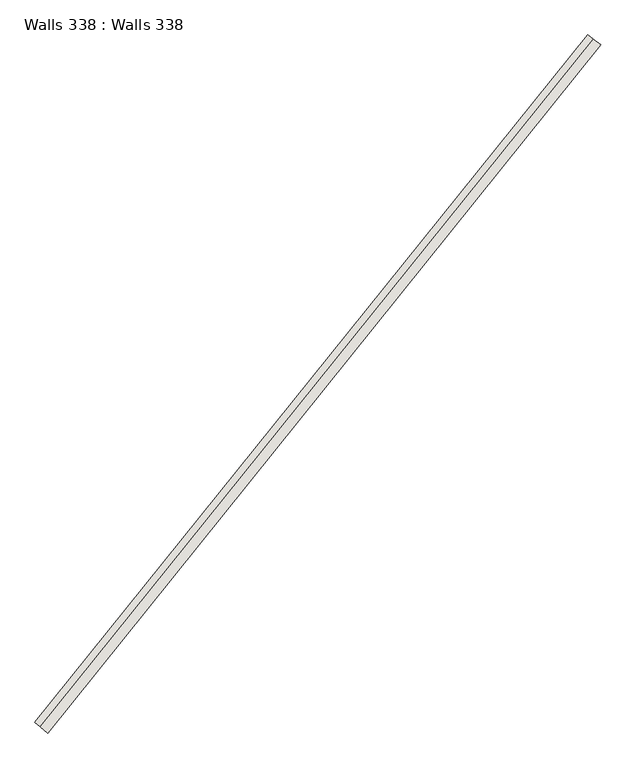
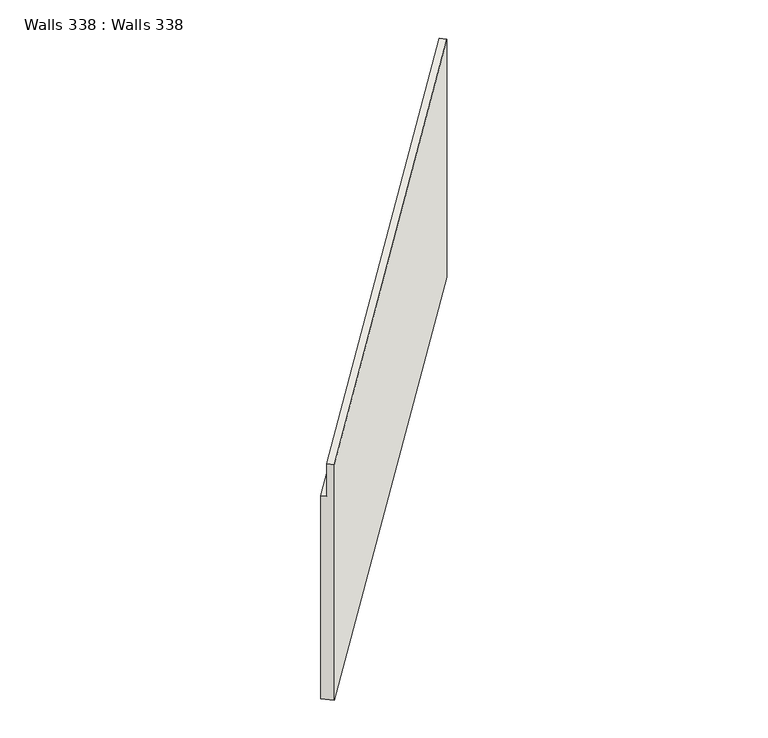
"""IFC4 building model written with IfcOpenShell, lengths in millimetres: wall geometry, Walls 338 : Walls 338."""

from ifc_helpers import new_model, si_unit, frame, origin, place, context, project, spatial, source, transform, mapped, element, save
from ifc_brep_helpers import plane_surface, spline_curve, spline_surface, advanced_brep


def walls_338_walls_338_be783a18(model_context):
    return source(origin(), model_context, "Body", "AdvancedBrep", [
        advanced_brep(
        [(28907.7176506, -85144.6934722, 646202.0), (28755.1503748, -85015.3751581, 646202.0), (28755.1503748, -85015.3751581, 645202.0), (28640.7249179, -84918.3864225, 645202.0), (28640.7249179, -84918.3864225, 638918.0), (28907.7176506, -85144.6934722, 638918.0), (40579.2102054, -70629.7256719, 646488.0), (40579.2102054, -70629.7256719, 639118.0), (40300.8701883, -70417.5303965, 639118.0), (40300.8701883, -70417.5303965, 645488.0), (40420.158767, -70508.4712289, 645488.0), (40420.158767, -70508.4712289, 646488.0)],
        [
            (0, 1),
            (1, 2),
            (2, 3),
            (3, 4),
            (4, 5),
            (5, 0),
            (6, 7),
            (7, 8),
            (8, 9),
            (9, 10),
            (10, 11),
            (11, 6),
            (6, 0, spline_curve(3, [(40579.2102054, -70629.7256719, 646488.0), (36814.755846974, -75567.622089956, 646392.666666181), (32922.52221114, -80408.10377238, 646297.333333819), (28907.7176506, -85144.6934722, 646202.0)], [4, 4], [0.0, 61.117483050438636])),
            (5, 7, spline_curve(3, [(28907.7176506, -85144.6934722, 638918.0), (32922.52221114, -80408.10377238, 638984.666667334), (36814.755846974, -75567.622089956, 639051.333332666), (40579.2102054, -70629.7256719, 639118.0)], [4, 4], [0.0, 61.117483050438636])),
            (11, 1, spline_curve(3, [(40420.158767, -70508.4712289, 646488.0), (36657.795772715, -75443.624370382, 646392.666666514), (32767.724487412, -80281.416897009, 646297.333333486), (28755.1503748, -85015.3751581, 646202.0)], [4, 4], [0.0, 61.10251246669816])),
            (10, 2, spline_curve(3, [(40420.158767, -70508.4712289, 645488.0), (36657.79577231, -75443.624371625, 645392.666666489), (32767.724486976, -80281.416897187, 645297.333333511), (28755.1503748, -85015.3751581, 645202.0)], [4, 4], [0.0, 61.08553883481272])),
            (9, 3, spline_curve(3, [(40300.8701883, -70417.5303965, 645488.0), (36540.075717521, -75350.62608056, 645392.666666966), (32651.626195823, -80186.401740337, 645297.333333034), (28640.7249179, -84918.3864225, 645202.0)], [4, 4], [0.0, 61.07280861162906])),
            (8, 4, spline_curve(3, [(40300.8701883, -70417.5303965, 639118.0), (36540.075715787, -75350.626081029, 639051.333333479), (32651.626195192, -80186.401740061, 638984.666666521), (28640.7249179, -84918.3864225, 638918.0)], [4, 4], [0.0, 61.058073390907])),
        ],
        [
            plane_surface(frame((28767.8643144, -85026.1516843, 643440.6666667), z_axis=(-0.6465915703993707, -0.762836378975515, 0.0), x_axis=(0.762836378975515, -0.6465915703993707, 0.0))),
            plane_surface(frame((40433.4130536, -70518.5757658, 643698.0), z_axis=(0.6062722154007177, 0.7952571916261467, 0.0), x_axis=(-0.7952571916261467, 0.6062722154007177, 0.0))),
            spline_surface(3, 3, [[(40579.2102054, -70629.7256719, 639118.0), (36814.755847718, -75567.622089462, 639051.333333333), (32922.522210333, -80408.103771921, 638984.666666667), (28907.7176506, -85144.6934722, 638918.0)], [(40579.2102054, -70629.7256719, 641574.666666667), (36814.755847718, -75567.622089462, 641498.444444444), (32922.522210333, -80408.103771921, 641422.222222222), (28907.7176506, -85144.6934722, 641346.0)], [(40579.2102054, -70629.7256719, 644031.333333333), (36814.755847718, -75567.622089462, 643945.555555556), (32922.522210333, -80408.103771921, 643859.777777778), (28907.7176506, -85144.6934722, 643774.0)], [(40579.2102054, -70629.7256719, 646488.0), (36814.755847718, -75567.622089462, 646392.666666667), (32922.522210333, -80408.103771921, 646297.333333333), (28907.7176506, -85144.6934722, 646202.0)]], [4, 4], [4, 4], [0.0, 24.038713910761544], [0.0, 61.117483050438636]),
            spline_surface(3, 3, [[(40579.2102054, -70629.7256719, 646488.0), (36814.755847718, -75567.622089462, 646392.666666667), (32922.522210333, -80408.103771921, 646297.333333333), (28907.7176506, -85144.6934722, 646202.0)], [(40526.193059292, -70589.307524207, 646488.0), (36762.435822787, -75526.289516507, 646392.666666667), (32870.922969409, -80365.874813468, 646297.333333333), (28856.861892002, -85101.587367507, 646202.0)], [(40473.175913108, -70548.889376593, 646488.0), (36710.115797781, -75484.956943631, 646392.666666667), (32819.32372848, -80323.645854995, 646297.333333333), (28806.006133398, -85058.481262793, 646202.0)], [(40420.158767, -70508.4712289, 646488.0), (36657.79577285, -75443.624370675, 646392.666666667), (32767.724487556, -80281.416896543, 646297.333333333), (28755.1503748, -85015.3751581, 646202.0)]], [4, 4], [4, 4], [0.0, 0.6561679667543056], [0.0, 61.10251246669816]),
            spline_surface(3, 3, [[(40420.158767, -70508.4712289, 646488.0), (36657.79577285, -75443.624370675, 646392.666666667), (32767.724487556, -80281.416896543, 646297.333333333), (28755.1503748, -85015.3751581, 646202.0)], [(40420.158767, -70508.4712289, 646154.666666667), (36657.79577285, -75443.624370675, 646059.333333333), (32767.724487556, -80281.416896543, 645964.0), (28755.1503748, -85015.3751581, 645868.666666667)], [(40420.158767, -70508.4712289, 645821.333333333), (36657.79577285, -75443.624370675, 645726.0), (32767.724487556, -80281.416896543, 645630.666666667), (28755.1503748, -85015.3751581, 645535.333333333)], [(40420.158767, -70508.4712289, 645488.0), (36657.79577285, -75443.624370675, 645392.666666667), (32767.724487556, -80281.416896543, 645297.333333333), (28755.1503748, -85015.3751581, 645202.0)]], [4, 4], [4, 4], [0.0, 3.2808398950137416], [0.0, 61.08553883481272]),
            spline_surface(3, 3, [[(40420.158767, -70508.4712289, 645488.0), (36657.79577285, -75443.624370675, 645392.666666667), (32767.724487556, -80281.416896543, 645297.333333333), (28755.1503748, -85015.3751581, 645202.0)], [(40380.395907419, -70478.15761813, 645488.0), (36618.555754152, -75412.624940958, 645392.666666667), (32729.025056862, -80249.745177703, 645297.333333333), (28717.008555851, -84983.04557958, 645202.0)], [(40340.633047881, -70447.84400727, 645488.0), (36579.315735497, -75381.625511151, 645392.666666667), (32690.325626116, -80218.073458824, 645297.333333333), (28678.866736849, -84950.71600102, 645202.0)], [(40300.8701883, -70417.5303965, 645488.0), (36540.075716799, -75350.626081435, 645392.666666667), (32651.626195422, -80186.401739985, 645297.333333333), (28640.7249179, -84918.3864225, 645202.0)]], [4, 4], [4, 4], [0.0, 0.49212597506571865], [0.0, 61.07280861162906]),
            spline_surface(3, 3, [[(40300.8701883, -70417.5303965, 645488.0), (36540.075716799, -75350.626081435, 645392.666666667), (32651.626195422, -80186.401739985, 645297.333333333), (28640.7249179, -84918.3864225, 645202.0)], [(40300.8701883, -70417.5303965, 643364.666666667), (36540.075716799, -75350.626081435, 643278.888888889), (32651.626195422, -80186.401739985, 643193.111111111), (28640.7249179, -84918.3864225, 643107.333333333)], [(40300.8701883, -70417.5303965, 641241.333333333), (36540.075716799, -75350.626081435, 641165.111111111), (32651.626195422, -80186.401739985, 641088.888888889), (28640.7249179, -84918.3864225, 641012.666666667)], [(40300.8701883, -70417.5303965, 639118.0), (36540.075716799, -75350.626081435, 639051.333333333), (32651.626195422, -80186.401739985, 638984.666666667), (28640.7249179, -84918.3864225, 638918.0)]], [4, 4], [4, 4], [0.0, 20.757874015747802], [0.0, 61.058073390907]),
            spline_surface(3, 3, [[(40300.8701883, -70417.5303965, 639118.0), (36540.075716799, -75350.626081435, 639051.333333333), (32651.626195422, -80186.401739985, 638984.666666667), (28640.7249179, -84918.3864225, 638918.0)], [(40393.65019399, -70488.262154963, 639118.0), (36631.635760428, -75422.958084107, 639051.333333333), (32741.92486704, -80260.302417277, 638984.666666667), (28729.722495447, -84993.822105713, 638918.0)], [(40486.43019971, -70558.993913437, 639118.0), (36723.195804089, -75495.29008679, 639051.333333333), (32832.223538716, -80334.203094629, 638984.666666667), (28818.720073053, -85069.257788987, 638918.0)], [(40579.2102054, -70629.7256719, 639118.0), (36814.755847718, -75567.622089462, 639051.333333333), (32922.522210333, -80408.103771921, 638984.666666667), (28907.7176506, -85144.6934722, 638918.0)]], [4, 4], [4, 4], [0.0, 1.148293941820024], [0.0, 61.086099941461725]),
        ],
        [
            (0, [[1, 2, 3, 4, 5, 6]]),
            (1, [[7, 8, 9, 10, 11, 12]]),
            (2, [[-7, 13, -6, 14]]),
            (3, [[-12, 15, -1, -13]]),
            (4, [[-11, 16, -2, -15]]),
            (5, [[-10, 17, -3, -16]]),
            (6, [[-9, 18, -4, -17]]),
            (7, [[-8, -14, -5, -18]]),
        ],
    ),
    ])


if __name__ == "__main__":
    model = new_model("IFC4")
    model_context = context("Model", 3, world=origin())
    ifc_project = project(units=[si_unit("LENGTHUNIT", "METRE", prefix="MILLI")], contexts=[model_context])
    site = spatial("IfcSite", under=ifc_project)
    building = spatial("IfcBuilding", under=site)
    placement = place(None, origin())
    walls_338_walls_338_shape = walls_338_walls_338_be783a18(model_context)
    element("IfcWall", 1, ObjectType="Walls 338 : Walls 338", at=placement, inside=building, context=model_context, shape_type="MappedRepresentation", body=[
        mapped(walls_338_walls_338_shape, transform((0.0, 0.0, 0.0), x_axis=(1.0, 0.0, 0.0), y_axis=(0.0, 1.0, 0.0), z_axis=(0.0, 0.0, 1.0))),
    ])
    save(model, "model.ifc")
